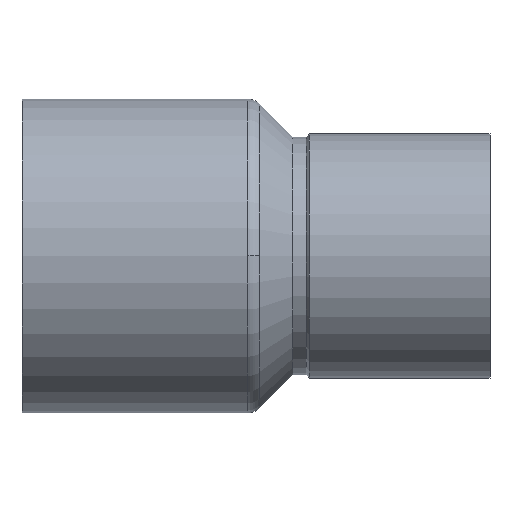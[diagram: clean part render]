
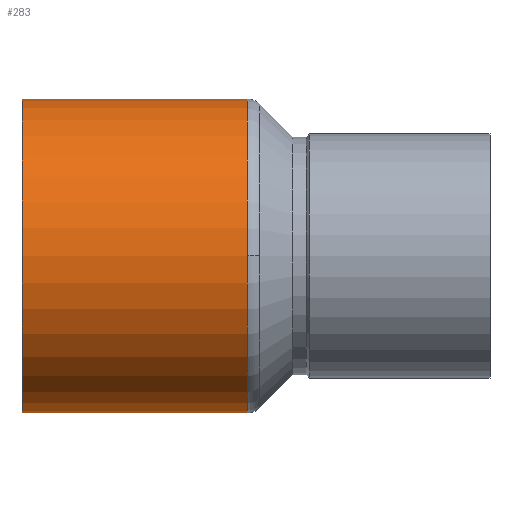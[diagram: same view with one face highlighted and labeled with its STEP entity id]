
A CAD part, top view. The second image highlights one B-rep face of the part: STEP entity #283.
In plain terms, the highlighted cylindrical face has radius 9.055 mm (diameter 18.11 mm), a partial arc.
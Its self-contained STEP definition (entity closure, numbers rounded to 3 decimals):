
#207=CARTESIAN_POINT('',(13.,9.055,0.0));
#208=VERTEX_POINT('',#207);
#216=CARTESIAN_POINT('',(13.,0.,9.055));
#217=VERTEX_POINT('',#216);
#218=CARTESIAN_POINT('',(13.,0.0,0.0));
#219=DIRECTION('',(1.0,0.0,0.0));
#220=DIRECTION('',(0.0,1.0,0.0));
#221=AXIS2_PLACEMENT_3D('',#218,#219,#220);
#222=CIRCLE('',#221,9.055);
#223=EDGE_CURVE('',#208,#217,#222,.T.);
#243=CARTESIAN_POINT('',(6.5,0.0,0.0));
#244=DIRECTION('',(1.0,0.0,0.0));
#245=DIRECTION('',(0.0,1.0,0.0));
#246=AXIS2_PLACEMENT_3D('',#243,#244,#245);
#247=CYLINDRICAL_SURFACE('',#246,9.055);
#248=CARTESIAN_POINT('',(0.0,9.055,0.0));
#249=VERTEX_POINT('',#248);
#250=CARTESIAN_POINT('',(0.0,9.055,0.0));
#251=DIRECTION('',(1.0,0.0,0.0));
#252=VECTOR('',#251,13.);
#253=LINE('',#250,#252);
#254=EDGE_CURVE('',#249,#208,#253,.T.);
#255=ORIENTED_EDGE('',*,*,#254,.F.);
#256=CARTESIAN_POINT('',(0.0,-9.055,0.));
#257=VERTEX_POINT('',#256);
#258=CARTESIAN_POINT('',(0.0,0.0,0.0));
#259=DIRECTION('',(1.0,0.0,0.0));
#260=DIRECTION('',(0.0,1.0,0.0));
#261=AXIS2_PLACEMENT_3D('',#258,#259,#260);
#262=CIRCLE('',#261,9.055);
#263=EDGE_CURVE('',#249,#257,#262,.T.);
#264=ORIENTED_EDGE('',*,*,#263,.T.);
#265=CARTESIAN_POINT('',(13.,-9.055,0.));
#266=VERTEX_POINT('',#265);
#267=CARTESIAN_POINT('',(13.,-9.055,0.));
#268=DIRECTION('',(-1.0,0.0,0.0));
#269=VECTOR('',#268,13.);
#270=LINE('',#267,#269);
#271=EDGE_CURVE('',#266,#257,#270,.T.);
#272=ORIENTED_EDGE('',*,*,#271,.F.);
#273=CARTESIAN_POINT('',(13.,0.0,0.0));
#274=DIRECTION('',(1.0,0.0,0.0));
#275=DIRECTION('',(0.0,1.0,0.0));
#276=AXIS2_PLACEMENT_3D('',#273,#274,#275);
#277=CIRCLE('',#276,9.055);
#278=EDGE_CURVE('',#217,#266,#277,.T.);
#279=ORIENTED_EDGE('',*,*,#278,.F.);
#280=ORIENTED_EDGE('',*,*,#223,.F.);
#281=EDGE_LOOP('',(#255,#264,#272,#279,#280));
#282=FACE_OUTER_BOUND('',#281,.T.);
#283=ADVANCED_FACE('',(#282),#247,.T.);
